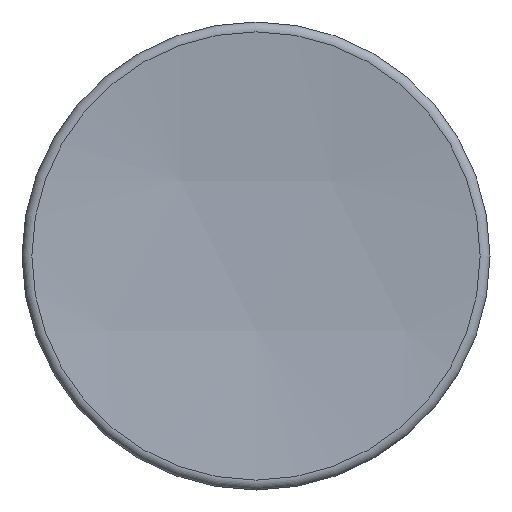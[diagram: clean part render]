
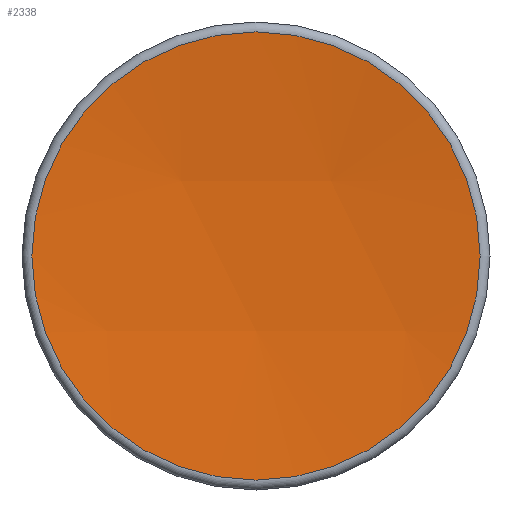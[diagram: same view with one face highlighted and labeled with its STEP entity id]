
A CAD part, front view. The second image highlights one B-rep face of the part: STEP entity #2338.
In plain terms, the highlighted spherical face has radius 600 mm.
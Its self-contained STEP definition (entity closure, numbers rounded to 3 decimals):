
#20=SPHERICAL_SURFACE('',#2659,600.);
#374=FACE_OUTER_BOUND('',#478,.T.);
#478=EDGE_LOOP('',(#2187,#2188));
#1192=VERTEX_POINT('',#5627);
#1193=VERTEX_POINT('',#5628);
#1610=EDGE_CURVE('',#1192,#1193,#2416,.T.);
#1611=EDGE_CURVE('',#1193,#1192,#2417,.T.);
#2187=ORIENTED_EDGE('',*,*,#1610,.T.);
#2188=ORIENTED_EDGE('',*,*,#1611,.T.);
#2338=ADVANCED_FACE('',(#374),#20,.F.);
#2416=CIRCLE('',#2660,76.617);
#2417=CIRCLE('',#2661,76.617);
#2659=AXIS2_PLACEMENT_3D('',#5626,#3247,#3248);
#2660=AXIS2_PLACEMENT_3D('',#5629,#3249,#3250);
#2661=AXIS2_PLACEMENT_3D('',#5630,#3251,#3252);
#3247=DIRECTION('center_axis',(0.,0.,
1.));
#3248=DIRECTION('ref_axis',(-1.,0.,0.));
#3249=DIRECTION('center_axis',(0.,-1.,0.));
#3250=DIRECTION('ref_axis',(-1.,0.,0.));
#3251=DIRECTION('center_axis',(0.,-1.,0.));
#3252=DIRECTION('ref_axis',(-1.,0.,0.));
#5626=CARTESIAN_POINT('Origin',(0.,-825.713,
0.));
#5627=CARTESIAN_POINT('',(0.,-230.625,76.617));
#5628=CARTESIAN_POINT('',(0.,-230.625,-76.617));
#5629=CARTESIAN_POINT('Origin',(0.,-230.625,
0.));
#5630=CARTESIAN_POINT('Origin',(0.,-230.625,
0.));
